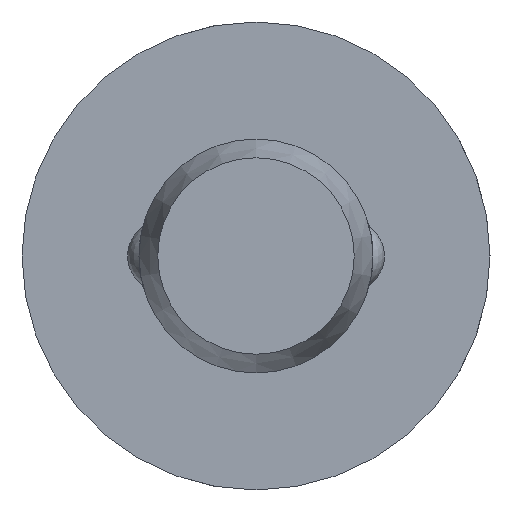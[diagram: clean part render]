
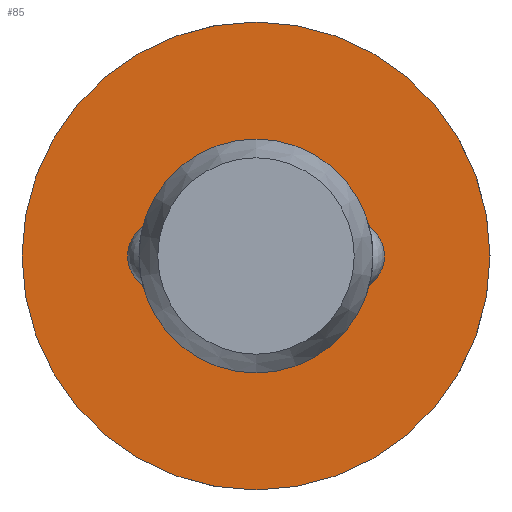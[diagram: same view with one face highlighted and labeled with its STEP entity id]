
A CAD part, left-side view. The second image highlights one B-rep face of the part: STEP entity #85.
In plain terms, the highlighted planar face has unit normal (-1, 0, 0).
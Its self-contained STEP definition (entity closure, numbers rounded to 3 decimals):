
#85 = ADVANCED_FACE( '', ( #131, #132 ), #133, .F. );
#131 = FACE_OUTER_BOUND( '', #204, .T. );
#132 = FACE_BOUND( '', #205, .T. );
#133 = PLANE( '', #206 );
#204 = EDGE_LOOP( '', ( #322 ) );
#205 = EDGE_LOOP( '', ( #323 ) );
#206 = AXIS2_PLACEMENT_3D( '', #324, #325, #326 );
#322 = ORIENTED_EDGE( '', *, *, #470, .F. );
#323 = ORIENTED_EDGE( '', *, *, #467, .T. );
#324 = CARTESIAN_POINT( '', ( 36., 2.5, 0. ) );
#325 = DIRECTION( '', ( 1., 0., 0. ) );
#326 = DIRECTION( '', ( 0., 0., -1. ) );
#467 = EDGE_CURVE( '', #541, #541, #542, .T. );
#470 = EDGE_CURVE( '', #547, #547, #548, .T. );
#541 = VERTEX_POINT( '', #749 );
#542 = CIRCLE( '', #750, 2.5 );
#547 = VERTEX_POINT( '', #801 );
#548 = CIRCLE( '', #802, 5. );
#749 = CARTESIAN_POINT( '', ( 36., 0., -2.5 ) );
#750 = AXIS2_PLACEMENT_3D( '', #881, #882, #883 );
#801 = CARTESIAN_POINT( '', ( 36., 0., -5. ) );
#802 = AXIS2_PLACEMENT_3D( '', #884, #885, #886 );
#881 = CARTESIAN_POINT( '', ( 36., 0., 0. ) );
#882 = DIRECTION( '', ( 1., 0., 0. ) );
#883 = DIRECTION( '', ( 0., 0., -1. ) );
#884 = CARTESIAN_POINT( '', ( 36., 0., 0. ) );
#885 = DIRECTION( '', ( 1., 0., 0. ) );
#886 = DIRECTION( '', ( 0., 0., -1. ) );
